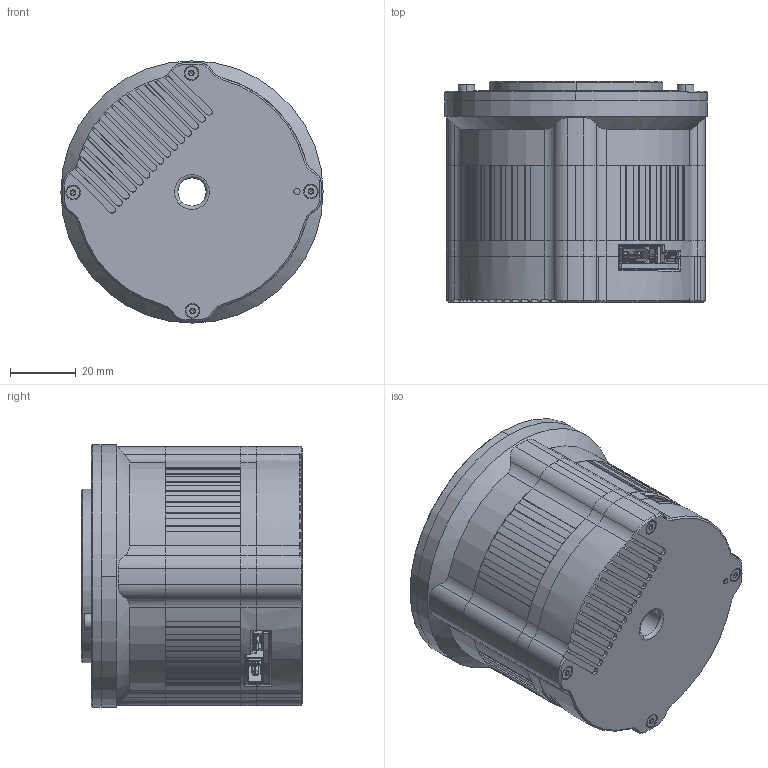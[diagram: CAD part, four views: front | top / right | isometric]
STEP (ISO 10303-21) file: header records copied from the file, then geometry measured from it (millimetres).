
FILE_DESCRIPTION (( 'STEP AP203' ), '1' );
FILE_NAME ('X6-P20-60.STEP', '2025-09-13T06:38:00', ( '微软用户' ), ( '微软中国' ), 'SwSTEP 2.0', 'SolidWorks 2020', '' );
FILE_SCHEMA (( 'CONFIG_CONTROL_DESIGN' ));
Length unit declared in the file: millimetre
Products named in the file (1): X6-P20-60
Bounding box: 80 x 67.5 x 80 mm (x, y, z)
Surface area: 49426.9 mm2 (no closed solid volume)
Topology: 0 solids, 45 shells, 803 faces, 3059 edges, 2208 vertices
Faces by surface type: plane 352, cylinder 294, cone 137, sphere 16, torus 4
Entity records: 33411 total; most frequent: CARTESIAN_POINT 7265, DIRECTION 5716, ORIENTED_EDGE 4780, EDGE_CURVE 3039, VERTEX_POINT 2208, AXIS2_PLACEMENT_3D 2135, VECTOR 1446, LINE 1446
